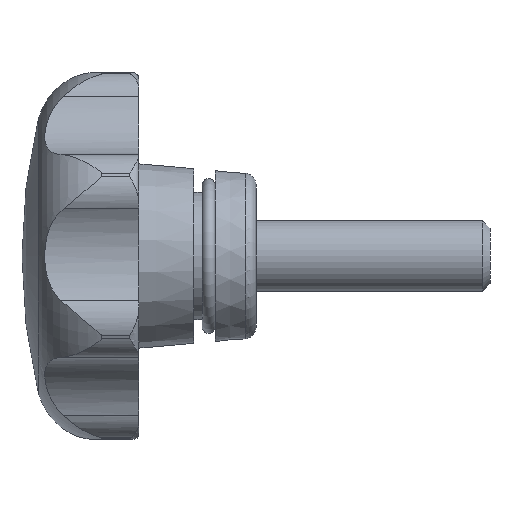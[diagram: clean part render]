
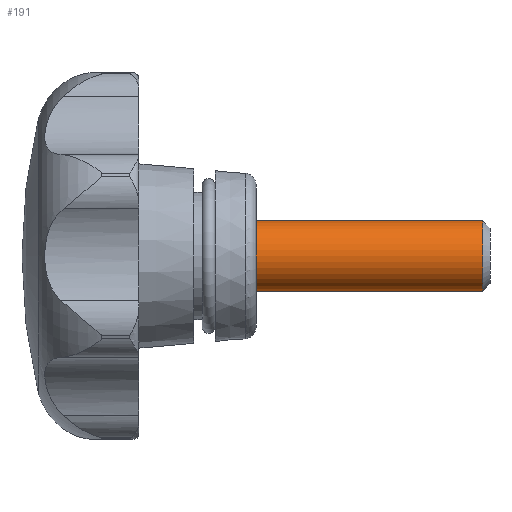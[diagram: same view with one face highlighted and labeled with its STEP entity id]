
A CAD part, left-side view. The second image highlights one B-rep face of the part: STEP entity #191.
In plain terms, the highlighted cylindrical face has radius 3 mm (diameter 6 mm), a full revolution.
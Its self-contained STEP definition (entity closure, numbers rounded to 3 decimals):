
#191 = ADVANCED_FACE( '', ( #399, #400 ), #401, .T. );
#399 = FACE_OUTER_BOUND( '', #793, .T. );
#400 = FACE_OUTER_BOUND( '', #794, .T. );
#401 = CYLINDRICAL_SURFACE( '', #795, 3. );
#793 = EDGE_LOOP( '', ( #1279 ) );
#794 = EDGE_LOOP( '', ( #1280 ) );
#795 = AXIS2_PLACEMENT_3D( '', #1281, #1282, #1283 );
#1279 = ORIENTED_EDGE( '', *, *, #2552, .F. );
#1280 = ORIENTED_EDGE( '', *, *, #2553, .T. );
#1281 = CARTESIAN_POINT( '', ( 0., -20., 0. ) );
#1282 = DIRECTION( '', ( 0., 1., 0. ) );
#1283 = DIRECTION( '', ( 0., 0., -1. ) );
#2552 = EDGE_CURVE( '', #3036, #3036, #3037, .T. );
#2553 = EDGE_CURVE( '', #3038, #3038, #3039, .T. );
#3036 = VERTEX_POINT( '', #3894 );
#3037 = CIRCLE( '', #3895, 3. );
#3038 = VERTEX_POINT( '', #3896 );
#3039 = CIRCLE( '', #3897, 3. );
#3894 = CARTESIAN_POINT( '', ( 0., -19.387, -3. ) );
#3895 = AXIS2_PLACEMENT_3D( '', #5757, #5758, #5759 );
#3896 = CARTESIAN_POINT( '', ( 0., 0., -3. ) );
#3897 = AXIS2_PLACEMENT_3D( '', #5760, #5761, #5762 );
#5757 = CARTESIAN_POINT( '', ( 0., -19.387, 0. ) );
#5758 = DIRECTION( '', ( 0., -1., 0. ) );
#5759 = DIRECTION( '', ( 0., 0., -1. ) );
#5760 = CARTESIAN_POINT( '', ( 0., 0., 0. ) );
#5761 = DIRECTION( '', ( 0., -1., 0. ) );
#5762 = DIRECTION( '', ( 0., 0., -1. ) );
